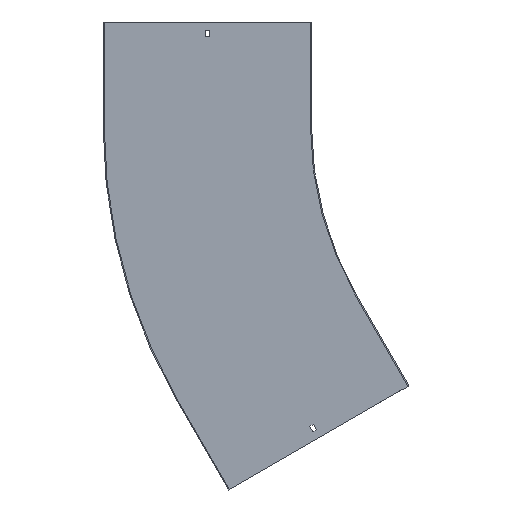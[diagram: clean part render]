
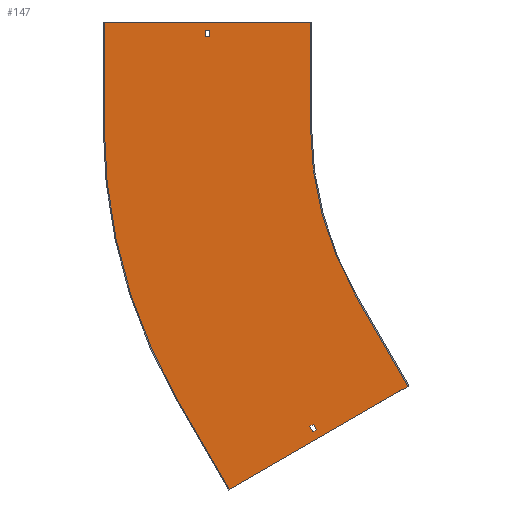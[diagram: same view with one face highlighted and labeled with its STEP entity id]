
A CAD part, front view. The second image highlights one B-rep face of the part: STEP entity #147.
In plain terms, the highlighted planar face has unit normal (0, -1, 0).
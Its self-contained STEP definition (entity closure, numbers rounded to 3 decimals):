
#5 = VERTEX_POINT ( 'NONE', #724 ) ;
#10 = EDGE_CURVE ( 'NONE', #639, #749, #662, .T. ) ;
#25 = CARTESIAN_POINT ( 'NONE',  ( -800., -1.5, 0. ) ) ;
#26 = VERTEX_POINT ( 'NONE', #750 ) ;
#27 = LINE ( 'NONE', #492, #776 ) ;
#28 = CARTESIAN_POINT ( 'NONE',  ( -495.602, -1.5, -435.092 ) ) ;
#30 = VERTEX_POINT ( 'NONE', #121 ) ;
#31 = DIRECTION ( 'NONE',  ( 0., 0., -1. ) ) ;
#34 = ORIENTED_EDGE ( 'NONE', *, *, #837, .T. ) ;
#36 = CARTESIAN_POINT ( 'NONE',  ( 0., -1.5, 138. ) ) ;
#43 = CARTESIAN_POINT ( 'NONE',  ( -653.25, -1.5, 138. ) ) ;
#47 = CARTESIAN_POINT ( 'NONE',  ( -801.5, -1.5, 150. ) ) ;
#49 = EDGE_CURVE ( 'NONE', #136, #406, #310, .T. ) ;
#58 = VERTEX_POINT ( 'NONE', #654 ) ;
#60 = ORIENTED_EDGE ( 'NONE', *, *, #457, .F. ) ;
#73 = CARTESIAN_POINT ( 'NONE',  ( -433.013, -1.5, -250. ) ) ;
#77 = CARTESIAN_POINT ( 'NONE',  ( -433.013, -1.5, -250. ) ) ;
#83 = EDGE_CURVE ( 'NONE', #5, #361, #780, .T. ) ;
#90 = ORIENTED_EDGE ( 'NONE', *, *, #636, .F. ) ;
#97 = VECTOR ( 'NONE', #111, 1000. ) ;
#111 = DIRECTION ( 'NONE',  ( -0.5, 0., 0.866 ) ) ;
#115 = LINE ( 'NONE', #47, #792 ) ;
#121 = CARTESIAN_POINT ( 'NONE',  ( -617.82, -1.5, -529.904 ) ) ;
#124 = EDGE_CURVE ( 'NONE', #394, #639, #166, .T. ) ;
#136 = VERTEX_POINT ( 'NONE', #156 ) ;
#140 = LINE ( 'NONE', #259, #377 ) ;
#147 = ADVANCED_FACE ( 'NONE', ( #630, #297, #646 ), #770, .T. ) ;
#149 = DIRECTION ( 'NONE',  ( 0., 0., -1. ) ) ;
#151 = VECTOR ( 'NONE', #161, 1000. ) ;
#152 = CARTESIAN_POINT ( 'NONE',  ( -560.102, -1.5, -323.375 ) ) ;
#156 = CARTESIAN_POINT ( 'NONE',  ( -496.731, -1.5, -446.137 ) ) ;
#160 = DIRECTION ( 'NONE',  ( 0., -1., 0. ) ) ;
#161 = DIRECTION ( 'NONE',  ( 1., 0., 0. ) ) ;
#166 = CIRCLE ( 'NONE', #827, 500. ) ;
#167 = CARTESIAN_POINT ( 'NONE',  ( 0., -1.5, 0. ) ) ;
#176 = CARTESIAN_POINT ( 'NONE',  ( -500., -1.5, 150. ) ) ;
#181 = VECTOR ( 'NONE', #228, 1000. ) ;
#183 = CARTESIAN_POINT ( 'NONE',  ( -800., -1.5, 0. ) ) ;
#194 = VECTOR ( 'NONE', #231, 1000. ) ;
#213 = LINE ( 'NONE', #738, #362 ) ;
#215 = EDGE_LOOP ( 'NONE', ( #34, #518, #836, #658 ) ) ;
#216 = CARTESIAN_POINT ( 'NONE',  ( 0., -1.5, 0. ) ) ;
#217 = CARTESIAN_POINT ( 'NONE',  ( -501.231, -1.5, -438.342 ) ) ;
#222 = DIRECTION ( 'NONE',  ( -0.866, 0., -0.5 ) ) ;
#223 = ORIENTED_EDGE ( 'NONE', *, *, #342, .F. ) ;
#224 = VECTOR ( 'NONE', #318, 1000. ) ;
#228 = DIRECTION ( 'NONE',  ( -0.5, 0., 0.866 ) ) ;
#229 = ORIENTED_EDGE ( 'NONE', *, *, #428, .F. ) ;
#231 = DIRECTION ( 'NONE',  ( 0.5, 0., -0.866 ) ) ;
#247 = DIRECTION ( 'NONE',  ( 0., 1., 0. ) ) ;
#259 = CARTESIAN_POINT ( 'NONE',  ( -646.75, -1.5, 0. ) ) ;
#273 = CARTESIAN_POINT ( 'NONE',  ( -356.714, -1.5, -379.154 ) ) ;
#297 = FACE_OUTER_BOUND ( 'NONE', #566, .T. ) ;
#299 = EDGE_CURVE ( 'NONE', #333, #58, #140, .T. ) ;
#310 = LINE ( 'NONE', #451, #390 ) ;
#318 = DIRECTION ( 'NONE',  ( 0., 0., 1. ) ) ;
#333 = VERTEX_POINT ( 'NONE', #399 ) ;
#342 = EDGE_CURVE ( 'NONE', #485, #394, #213, .T. ) ;
#343 = LINE ( 'NONE', #725, #748 ) ;
#356 = DIRECTION ( 'NONE',  ( -1., 0., 0. ) ) ;
#358 = LINE ( 'NONE', #478, #693 ) ;
#361 = VERTEX_POINT ( 'NONE', #43 ) ;
#362 = VECTOR ( 'NONE', #149, 1000. ) ;
#363 = VECTOR ( 'NONE', #815, 1000. ) ;
#377 = VECTOR ( 'NONE', #405, 1000. ) ;
#390 = VECTOR ( 'NONE', #785, 1000. ) ;
#394 = VERTEX_POINT ( 'NONE', #552 ) ;
#399 = CARTESIAN_POINT ( 'NONE',  ( -646.75, -1.5, 138. ) ) ;
#404 = DIRECTION ( 'NONE',  ( 0.5, 0., -0.866 ) ) ;
#405 = DIRECTION ( 'NONE',  ( 0., 0., -1. ) ) ;
#406 = VERTEX_POINT ( 'NONE', #483 ) ;
#417 = EDGE_CURVE ( 'NONE', #545, #26, #685, .T. ) ;
#428 = EDGE_CURVE ( 'NONE', #406, #863, #548, .T. ) ;
#432 = LINE ( 'NONE', #690, #97 ) ;
#445 = EDGE_CURVE ( 'NONE', #749, #30, #556, .T. ) ;
#451 = CARTESIAN_POINT ( 'NONE',  ( 69., -1.5, -119.512 ) ) ;
#457 = EDGE_CURVE ( 'NONE', #30, #570, #432, .T. ) ;
#472 = ORIENTED_EDGE ( 'NONE', *, *, #124, .F. ) ;
#478 = CARTESIAN_POINT ( 'NONE',  ( 64.5, -1.5, -111.717 ) ) ;
#483 = CARTESIAN_POINT ( 'NONE',  ( -491.102, -1.5, -442.887 ) ) ;
#485 = VERTEX_POINT ( 'NONE', #176 ) ;
#488 = DIRECTION ( 'NONE',  ( 0., -1., 0. ) ) ;
#492 = CARTESIAN_POINT ( 'NONE',  ( 0., -1.5, 129. ) ) ;
#504 = AXIS2_PLACEMENT_3D ( 'NONE', #167, #247, #563 ) ;
#514 = EDGE_CURVE ( 'NONE', #26, #485, #115, .T. ) ;
#518 = ORIENTED_EDGE ( 'NONE', *, *, #299, .T. ) ;
#522 = DIRECTION ( 'NONE',  ( 1., 0., 0. ) ) ;
#545 = VERTEX_POINT ( 'NONE', #183 ) ;
#548 = LINE ( 'NONE', #152, #181 ) ;
#552 = CARTESIAN_POINT ( 'NONE',  ( -500., -1.5, 0. ) ) ;
#556 = LINE ( 'NONE', #273, #676 ) ;
#562 = CARTESIAN_POINT ( 'NONE',  ( 0., -1.5, 0. ) ) ;
#563 = DIRECTION ( 'NONE',  ( 0., 0., -1. ) ) ;
#566 = EDGE_LOOP ( 'NONE', ( #756, #849, #692, #60, #744, #606, #472, #223 ) ) ;
#570 = VERTEX_POINT ( 'NONE', #843 ) ;
#572 = AXIS2_PLACEMENT_3D ( 'NONE', #562, #160, #31 ) ;
#576 = CIRCLE ( 'NONE', #504, 800. ) ;
#594 = ORIENTED_EDGE ( 'NONE', *, *, #49, .F. ) ;
#606 = ORIENTED_EDGE ( 'NONE', *, *, #10, .F. ) ;
#625 = DIRECTION ( 'NONE',  ( -0.866, 0., -0.5 ) ) ;
#630 = FACE_BOUND ( 'NONE', #698, .T. ) ;
#636 = EDGE_CURVE ( 'NONE', #711, #136, #343, .T. ) ;
#639 = VERTEX_POINT ( 'NONE', #73 ) ;
#646 = FACE_BOUND ( 'NONE', #215, .T. ) ;
#654 = CARTESIAN_POINT ( 'NONE',  ( -646.75, -1.5, 129. ) ) ;
#658 = ORIENTED_EDGE ( 'NONE', *, *, #83, .T. ) ;
#662 = LINE ( 'NONE', #77, #194 ) ;
#673 = DIRECTION ( 'NONE',  ( 0., 0., -1. ) ) ;
#674 = CARTESIAN_POINT ( 'NONE',  ( -358.013, -1.5, -379.904 ) ) ;
#675 = EDGE_CURVE ( 'NONE', #863, #711, #358, .T. ) ;
#676 = VECTOR ( 'NONE', #222, 1000. ) ;
#685 = LINE ( 'NONE', #25, #363 ) ;
#690 = CARTESIAN_POINT ( 'NONE',  ( -617.82, -1.5, -529.904 ) ) ;
#692 = ORIENTED_EDGE ( 'NONE', *, *, #786, .F. ) ;
#693 = VECTOR ( 'NONE', #625, 1000. ) ;
#698 = EDGE_LOOP ( 'NONE', ( #229, #594, #90, #788 ) ) ;
#709 = CARTESIAN_POINT ( 'NONE',  ( -653.25, -1.5, 0. ) ) ;
#711 = VERTEX_POINT ( 'NONE', #217 ) ;
#724 = CARTESIAN_POINT ( 'NONE',  ( -653.25, -1.5, 129. ) ) ;
#725 = CARTESIAN_POINT ( 'NONE',  ( -565.731, -1.5, -326.625 ) ) ;
#730 = EDGE_CURVE ( 'NONE', #58, #5, #27, .T. ) ;
#738 = CARTESIAN_POINT ( 'NONE',  ( -500., -1.5, 150. ) ) ;
#744 = ORIENTED_EDGE ( 'NONE', *, *, #445, .F. ) ;
#748 = VECTOR ( 'NONE', #404, 1000. ) ;
#749 = VERTEX_POINT ( 'NONE', #674 ) ;
#750 = CARTESIAN_POINT ( 'NONE',  ( -800., -1.5, 150. ) ) ;
#753 = LINE ( 'NONE', #36, #151 ) ;
#756 = ORIENTED_EDGE ( 'NONE', *, *, #514, .F. ) ;
#770 = PLANE ( 'NONE',  #572 ) ;
#776 = VECTOR ( 'NONE', #356, 1000. ) ;
#780 = LINE ( 'NONE', #709, #224 ) ;
#785 = DIRECTION ( 'NONE',  ( 0.866, 0., 0.5 ) ) ;
#786 = EDGE_CURVE ( 'NONE', #570, #545, #576, .T. ) ;
#788 = ORIENTED_EDGE ( 'NONE', *, *, #675, .F. ) ;
#792 = VECTOR ( 'NONE', #522, 1000. ) ;
#815 = DIRECTION ( 'NONE',  ( 0., 0., 1. ) ) ;
#827 = AXIS2_PLACEMENT_3D ( 'NONE', #216, #488, #673 ) ;
#836 = ORIENTED_EDGE ( 'NONE', *, *, #730, .T. ) ;
#837 = EDGE_CURVE ( 'NONE', #361, #333, #753, .T. ) ;
#843 = CARTESIAN_POINT ( 'NONE',  ( -692.82, -1.5, -400. ) ) ;
#849 = ORIENTED_EDGE ( 'NONE', *, *, #417, .F. ) ;
#863 = VERTEX_POINT ( 'NONE', #28 ) ;
